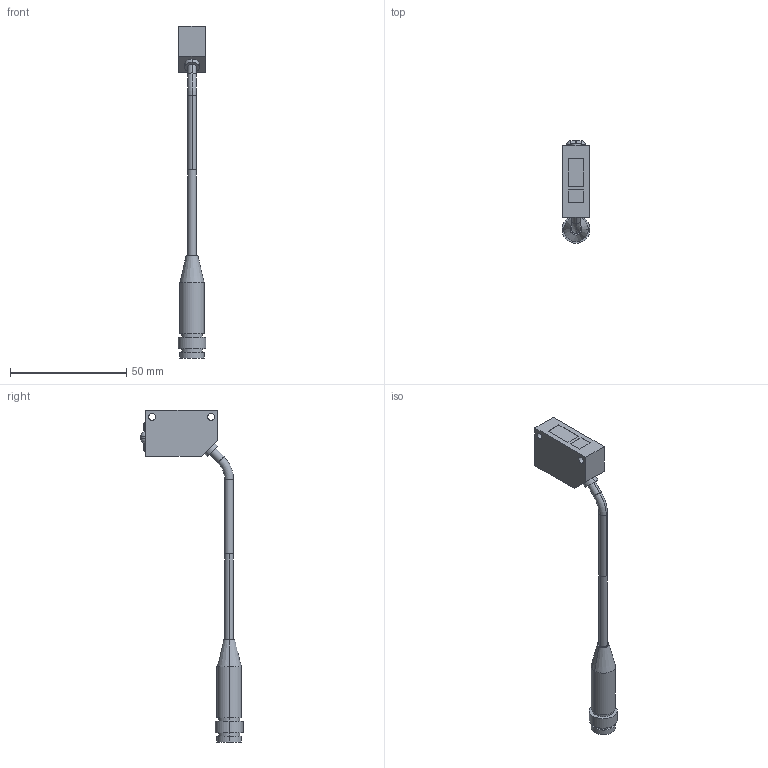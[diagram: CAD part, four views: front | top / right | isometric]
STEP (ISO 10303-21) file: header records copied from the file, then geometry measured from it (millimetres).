
FILE_DESCRIPTION (( 'STEP AP203' ), '1' );
FILE_NAME ('CX-441-J.STEP', '2005-09-08T01:54:43', ( '' ), ( '' ), 'SwSTEP 2.0', 'SolidWorks 2004073', '' );
FILE_SCHEMA (( 'CONFIG_CONTROL_DESIGN' ));
Length unit declared in the file: millimetre
Products named in the file (1): CX-441-J
Bounding box: 12 x 44 x 143 mm (x, y, z)
Volume: 10979.3 mm3; surface area: 5166.8 mm2
Topology: 2 solids, 3 shells, 105 faces, 240 edges, 152 vertices
Faces by surface type: plane 52, cylinder 42, cone 5, sphere 4, torus 2
Entity records: 3023 total; most frequent: DIRECTION 544, CARTESIAN_POINT 500, ORIENTED_EDGE 472, EDGE_CURVE 236, AXIS2_PLACEMENT_3D 204, VERTEX_POINT 152, VECTOR 136, LINE 136
